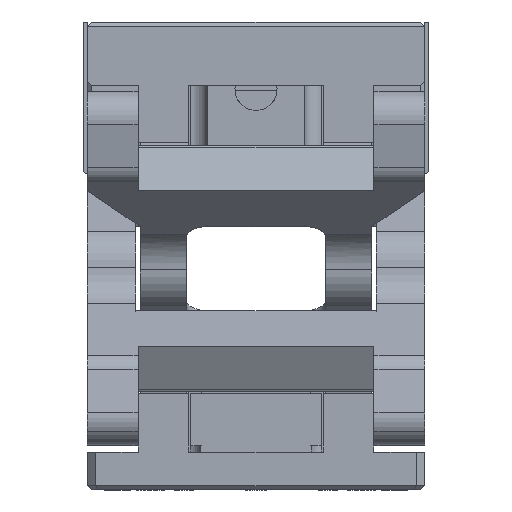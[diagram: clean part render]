
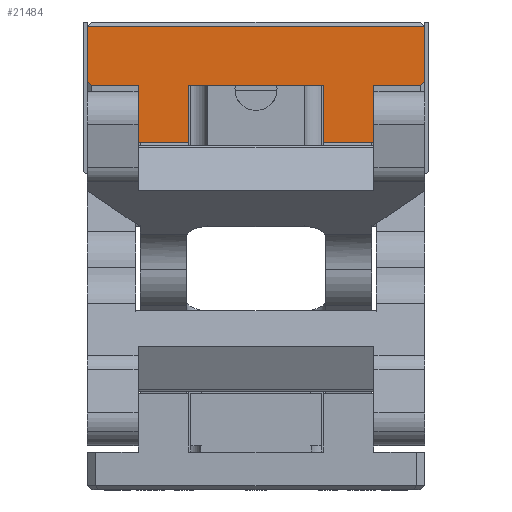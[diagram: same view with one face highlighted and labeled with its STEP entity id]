
A CAD part, left-side view. The second image highlights one B-rep face of the part: STEP entity #21484.
In plain terms, the highlighted planar face has unit normal (-1, 0, 0).
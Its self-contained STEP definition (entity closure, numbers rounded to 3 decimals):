
#2 = LINE ( 'NONE', #19836, #13976 ) ;
#884 = ORIENTED_EDGE ( 'NONE', *, *, #25038, .F. ) ;
#1263 = LINE ( 'NONE', #22639, #23155 ) ;
#1342 = LINE ( 'NONE', #20433, #10460 ) ;
#1812 = CARTESIAN_POINT ( 'NONE',  ( -60., 16., 15. ) ) ;
#1894 = DIRECTION ( 'NONE',  ( 0., -1., 0. ) ) ;
#1929 = VECTOR ( 'NONE', #22758, 1000. ) ;
#2017 = CARTESIAN_POINT ( 'NONE',  ( -60., 39., 15. ) ) ;
#2055 = EDGE_CURVE ( 'NONE', #18423, #17604, #14401, .T. ) ;
#2113 = EDGE_CURVE ( 'NONE', #4994, #23637, #11395, .T. ) ;
#2750 = EDGE_CURVE ( 'NONE', #15960, #8172, #4120, .T. ) ;
#2877 = CARTESIAN_POINT ( 'NONE',  ( -60., 16., 28.5 ) ) ;
#2940 = LINE ( 'NONE', #9394, #24849 ) ;
#2990 = FACE_OUTER_BOUND ( 'NONE', #18219, .T. ) ;
#3247 = CARTESIAN_POINT ( 'NONE',  ( -60., -40., 15. ) ) ;
#3356 = CARTESIAN_POINT ( 'NONE',  ( -60., 28., 18.5 ) ) ;
#3698 = CARTESIAN_POINT ( 'NONE',  ( -60., -40., 1. ) ) ;
#4116 = VECTOR ( 'NONE', #1894, 1000. ) ;
#4120 = LINE ( 'NONE', #8537, #6821 ) ;
#4276 = VECTOR ( 'NONE', #13575, 1000. ) ;
#4286 = CARTESIAN_POINT ( 'NONE',  ( -60., 28., 15. ) ) ;
#4911 = EDGE_CURVE ( 'NONE', #9981, #13154, #5534, .T. ) ;
#4921 = ORIENTED_EDGE ( 'NONE', *, *, #2055, .F. ) ;
#4994 = VERTEX_POINT ( 'NONE', #13766 ) ;
#5005 = ORIENTED_EDGE ( 'NONE', *, *, #6002, .F. ) ;
#5079 = ORIENTED_EDGE ( 'NONE', *, *, #6919, .F. ) ;
#5123 = LINE ( 'NONE', #20102, #19359 ) ;
#5208 = VERTEX_POINT ( 'NONE', #19928 ) ;
#5465 = CARTESIAN_POINT ( 'NONE',  ( -60., 16., 18.5 ) ) ;
#5534 = LINE ( 'NONE', #5465, #18857 ) ;
#5720 = ORIENTED_EDGE ( 'NONE', *, *, #4911, .F. ) ;
#5814 = LINE ( 'NONE', #8271, #20051 ) ;
#6001 = DIRECTION ( 'NONE',  ( 0., 0., -1. ) ) ;
#6002 = EDGE_CURVE ( 'NONE', #17604, #22327, #12767, .T. ) ;
#6821 = VECTOR ( 'NONE', #24024, 1000. ) ;
#6919 = EDGE_CURVE ( 'NONE', #9495, #18423, #5123, .T. ) ;
#7260 = DIRECTION ( 'NONE',  ( 0., 0., -1. ) ) ;
#7357 = DIRECTION ( 'NONE',  ( 0., -0.707, -0.707 ) ) ;
#7446 = LINE ( 'NONE', #12347, #11400 ) ;
#7677 = ORIENTED_EDGE ( 'NONE', *, *, #2750, .F. ) ;
#7705 = ORIENTED_EDGE ( 'NONE', *, *, #2113, .F. ) ;
#7866 = EDGE_CURVE ( 'NONE', #13380, #15960, #7446, .T. ) ;
#8172 = VERTEX_POINT ( 'NONE', #21734 ) ;
#8232 = ORIENTED_EDGE ( 'NONE', *, *, #15415, .T. ) ;
#8271 = CARTESIAN_POINT ( 'NONE',  ( -60., -40., 15. ) ) ;
#8537 = CARTESIAN_POINT ( 'NONE',  ( -60., -40., 1. ) ) ;
#8637 = ORIENTED_EDGE ( 'NONE', *, *, #25169, .F. ) ;
#9394 = CARTESIAN_POINT ( 'NONE',  ( -60., 40., 18.5 ) ) ;
#9495 = VERTEX_POINT ( 'NONE', #22677 ) ;
#9981 = VERTEX_POINT ( 'NONE', #2877 ) ;
#10460 = VECTOR ( 'NONE', #12640, 1000. ) ;
#10689 = VERTEX_POINT ( 'NONE', #21817 ) ;
#10690 = EDGE_CURVE ( 'NONE', #13154, #23482, #5814, .T. ) ;
#11395 = LINE ( 'NONE', #23905, #16525 ) ;
#11400 = VECTOR ( 'NONE', #20220, 1000. ) ;
#11574 = CARTESIAN_POINT ( 'NONE',  ( -60., -40., 15. ) ) ;
#11848 = VECTOR ( 'NONE', #21346, 1000. ) ;
#11927 = PLANE ( 'NONE',  #23213 ) ;
#12159 = LINE ( 'NONE', #21281, #4276 ) ;
#12252 = DIRECTION ( 'NONE',  ( 0., -1., 0. ) ) ;
#12254 = ORIENTED_EDGE ( 'NONE', *, *, #10690, .F. ) ;
#12347 = CARTESIAN_POINT ( 'NONE',  ( -60., -40., 18.5 ) ) ;
#12640 = DIRECTION ( 'NONE',  ( 0., 0., 1. ) ) ;
#12767 = LINE ( 'NONE', #3356, #11848 ) ;
#13154 = VERTEX_POINT ( 'NONE', #1812 ) ;
#13380 = VERTEX_POINT ( 'NONE', #18599 ) ;
#13575 = DIRECTION ( 'NONE',  ( 0., -1., 0. ) ) ;
#13766 = CARTESIAN_POINT ( 'NONE',  ( -60., -16., 28.5 ) ) ;
#13976 = VECTOR ( 'NONE', #21868, 1000. ) ;
#14401 = LINE ( 'NONE', #11574, #4116 ) ;
#14404 = EDGE_CURVE ( 'NONE', #5208, #10689, #18070, .T. ) ;
#14682 = CARTESIAN_POINT ( 'NONE',  ( -60., 28., 28.5 ) ) ;
#15415 = EDGE_CURVE ( 'NONE', #9495, #8172, #2940, .T. ) ;
#15960 = VERTEX_POINT ( 'NONE', #3698 ) ;
#16525 = VECTOR ( 'NONE', #22151, 1000. ) ;
#16736 = ORIENTED_EDGE ( 'NONE', *, *, #23712, .F. ) ;
#17573 = CARTESIAN_POINT ( 'NONE',  ( -60., -40., 18.5 ) ) ;
#17604 = VERTEX_POINT ( 'NONE', #4286 ) ;
#18070 = LINE ( 'NONE', #3247, #1929 ) ;
#18176 = EDGE_CURVE ( 'NONE', #23482, #4994, #1342, .T. ) ;
#18219 = EDGE_LOOP ( 'NONE', ( #5079, #8232, #7677, #20147, #16736, #20414, #8637, #7705, #24924, #12254, #5720, #884, #5005, #4921 ) ) ;
#18423 = VERTEX_POINT ( 'NONE', #2017 ) ;
#18599 = CARTESIAN_POINT ( 'NONE',  ( -60., -40., 14. ) ) ;
#18857 = VECTOR ( 'NONE', #25011, 1000. ) ;
#19359 = VECTOR ( 'NONE', #23720, 1000. ) ;
#19796 = DIRECTION ( 'NONE',  ( 1., 0., 0. ) ) ;
#19836 = CARTESIAN_POINT ( 'NONE',  ( -60., -28., 18.5 ) ) ;
#19928 = CARTESIAN_POINT ( 'NONE',  ( -60., -28., 15. ) ) ;
#20051 = VECTOR ( 'NONE', #12252, 1000. ) ;
#20102 = CARTESIAN_POINT ( 'NONE',  ( -60., 40., 14. ) ) ;
#20147 = ORIENTED_EDGE ( 'NONE', *, *, #7866, .F. ) ;
#20220 = DIRECTION ( 'NONE',  ( 0., 0., -1. ) ) ;
#20409 = CARTESIAN_POINT ( 'NONE',  ( -60., -16., 15. ) ) ;
#20414 = ORIENTED_EDGE ( 'NONE', *, *, #14404, .F. ) ;
#20433 = CARTESIAN_POINT ( 'NONE',  ( -60., -16., 18.5 ) ) ;
#21281 = CARTESIAN_POINT ( 'NONE',  ( -60., -40., 28.5 ) ) ;
#21346 = DIRECTION ( 'NONE',  ( 0., 0., 1. ) ) ;
#21484 = ADVANCED_FACE ( 'NONE', ( #2990 ), #11927, .F. ) ;
#21734 = CARTESIAN_POINT ( 'NONE',  ( -60., 40., 1. ) ) ;
#21817 = CARTESIAN_POINT ( 'NONE',  ( -60., -39., 15. ) ) ;
#21868 = DIRECTION ( 'NONE',  ( 0., 0., -1. ) ) ;
#22151 = DIRECTION ( 'NONE',  ( 0., -1., 0. ) ) ;
#22327 = VERTEX_POINT ( 'NONE', #14682 ) ;
#22639 = CARTESIAN_POINT ( 'NONE',  ( -60., -39., 15. ) ) ;
#22677 = CARTESIAN_POINT ( 'NONE',  ( -60., 40., 14. ) ) ;
#22758 = DIRECTION ( 'NONE',  ( 0., -1., 0. ) ) ;
#22974 = CARTESIAN_POINT ( 'NONE',  ( -60., -28., 28.5 ) ) ;
#23155 = VECTOR ( 'NONE', #7357, 1000. ) ;
#23213 = AXIS2_PLACEMENT_3D ( 'NONE', #17573, #19796, #6001 ) ;
#23482 = VERTEX_POINT ( 'NONE', #20409 ) ;
#23637 = VERTEX_POINT ( 'NONE', #22974 ) ;
#23712 = EDGE_CURVE ( 'NONE', #10689, #13380, #1263, .T. ) ;
#23720 = DIRECTION ( 'NONE',  ( 0., -0.707, 0.707 ) ) ;
#23905 = CARTESIAN_POINT ( 'NONE',  ( -60., -40., 28.5 ) ) ;
#24024 = DIRECTION ( 'NONE',  ( 0., 1., 0. ) ) ;
#24849 = VECTOR ( 'NONE', #7260, 1000. ) ;
#24924 = ORIENTED_EDGE ( 'NONE', *, *, #18176, .F. ) ;
#25011 = DIRECTION ( 'NONE',  ( 0., 0., -1. ) ) ;
#25038 = EDGE_CURVE ( 'NONE', #22327, #9981, #12159, .T. ) ;
#25169 = EDGE_CURVE ( 'NONE', #23637, #5208, #2, .T. ) ;
